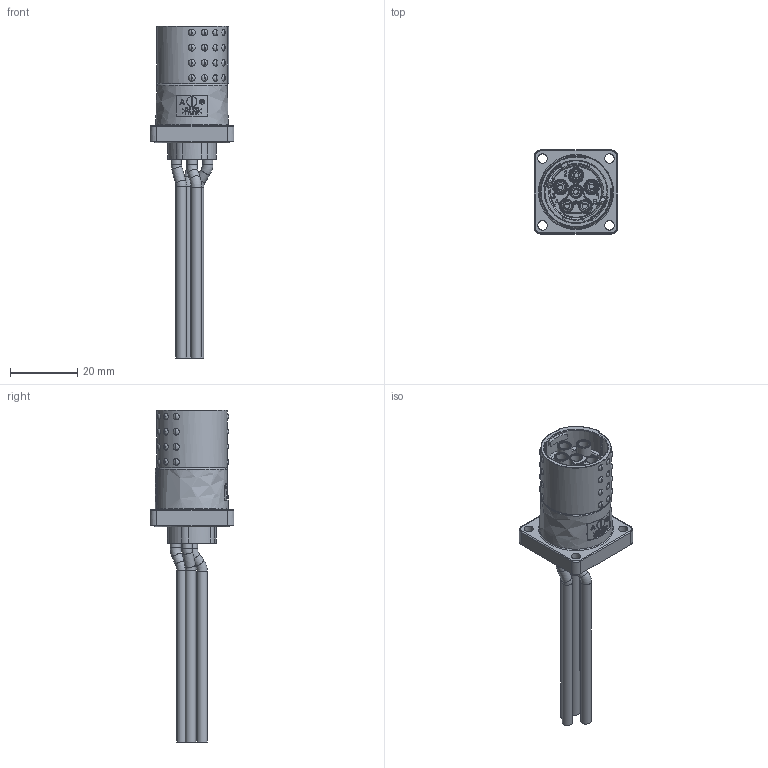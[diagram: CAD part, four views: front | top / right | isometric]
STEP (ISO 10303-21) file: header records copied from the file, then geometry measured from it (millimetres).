
FILE_DESCRIPTION (( 'STEP AP203' ), '1' );
FILE_NAME ('1133168_X-TEC_15K_ANBAU-BU_STEP.STEP', '2023-09-21T11:10:05', ( '' ), ( '' ), 'SwSTEP 2.0', 'SolidWorks 2021', '' );
FILE_SCHEMA (( 'CONFIG_CONTROL_DESIGN' ));
Length unit declared in the file: millimetre
Products named in the file (1): 1133168_X-TEC_15K_ANBAU-BU_STEP
Bounding box: 25 x 25 x 98.81 mm (x, y, z)
Surface area: 16079.5 mm2 (no closed solid volume)
Topology: 0 solids, 14 shells, 1636 faces, 3831 edges, 2555 vertices
Faces by surface type: plane 813, cylinder 496, bspline 280, cone 33, torus 14
Full cylindrical faces by diameter (mm): 0.2 x220, 0.8 x6, 1.5 x1, 1.6 x12, 2.25 x6, 2.5 x12, 2.6 x6, 2.8 x4, 3.1 x12, 3.12 x6, 3.3 x6, 3.5 x12, 3.6 x6, 4 x6, 4.3 x3, 15.595 x1, 16.8 x1, 16.9 x1, 18.304 x1, 18.4 x1, 20.5 x1, 23.5 x1
Entity records: 68160 total; most frequent: CARTESIAN_POINT 35709, ORIENTED_EDGE 6506, DIRECTION 5702, EDGE_CURVE 3253, EDGE_LOOP 2417, VERTEX_POINT 2382, AXIS2_PLACEMENT_3D 2258, FACE_OUTER_BOUND 1987
